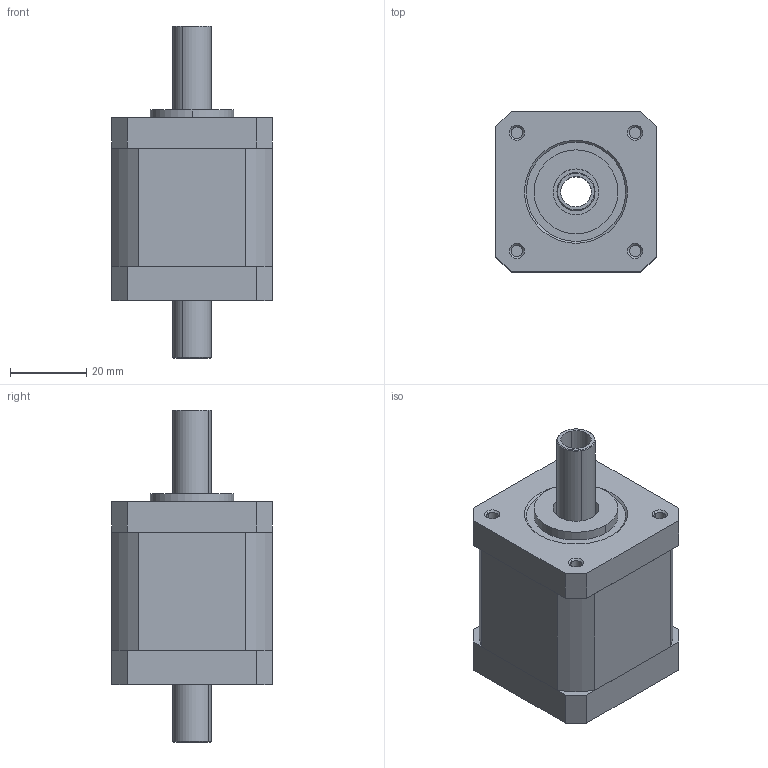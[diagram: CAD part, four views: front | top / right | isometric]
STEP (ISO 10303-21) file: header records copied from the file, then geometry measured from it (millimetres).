
FILE_DESCRIPTION (( 'STEP AP203' ), '1' );
FILE_NAME ('42J1848-425-10-2415-01諾陑粣.STEP', '2022-07-25T11:01:56', ( 'USER-' ), ( 'MS' ), 'SwSTEP 2.0', 'SolidWorks 2018', '' );
FILE_SCHEMA (( 'CONFIG_CONTROL_DESIGN' ));
Length unit declared in the file: millimetre
Products named in the file (5): __10x67.6________8^42J1848-425-10-2415-01諾陑粣(2)_42J1848-425-10-2415-01諾陑粣; 42J1848-425-10-2415-01諾陑粣; 42____30^42J1848-425-10-2415-01諾陑粣(2)_42J1848-425-10-2415-01諾陑粣; 复件 (2) ^42J1848-425-10-2415-01空心轴(2)_42J1848-425-10-2415-01空心轴; ^42J1848-425-10-2415-01諾陑粣(2)_42J1848-425-10-2415-01諾陑粣
Assembly tree (4 placements, depth 2):
  42J1848-425-10-2415-01諾陑粣
    42____30^42J1848-425-10-2415-01諾陑粣(2)_42J1848-425-10-2415-01諾陑粣
    ^42J1848-425-10-2415-01諾陑粣(2)_42J1848-425-10-2415-01諾陑粣
    复件 (2) ^42J1848-425-10-2415-01空心轴(2)_42J1848-425-10-2415-01空心轴
    __10x67.6________8^42J1848-425-10-2415-01諾陑粣(2)_42J1848-425-10-2415-01諾陑粣
Bounding box: 42 x 42 x 87 mm (x, y, z)
Volume: 79809.5 mm3; surface area: 24538.1 mm2
Topology: 4 solids, 4 shells, 192 faces, 482 edges, 312 vertices
Faces by surface type: plane 106, cylinder 56, torus 16, cone 14
Entity records: 6425 total; most frequent: CARTESIAN_POINT 1241, DIRECTION 992, ORIENTED_EDGE 964, EDGE_CURVE 482, AXIS2_PLACEMENT_3D 367, VERTEX_POINT 312, VECTOR 258, LINE 258
